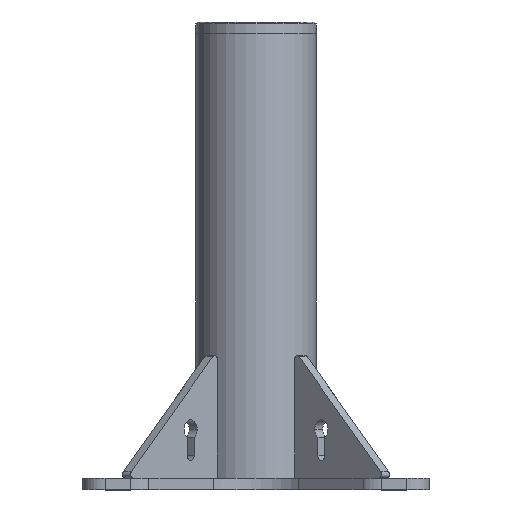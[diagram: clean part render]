
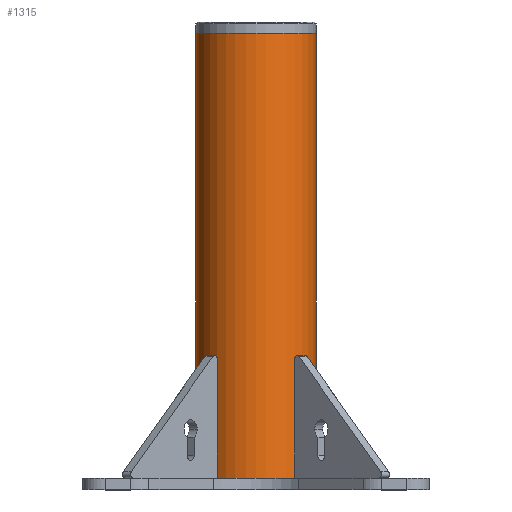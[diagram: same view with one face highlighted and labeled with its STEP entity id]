
A CAD part, top view. The second image highlights one B-rep face of the part: STEP entity #1315.
In plain terms, the highlighted cylindrical face has radius 50.8 mm (diameter 101.6 mm), a partial arc.
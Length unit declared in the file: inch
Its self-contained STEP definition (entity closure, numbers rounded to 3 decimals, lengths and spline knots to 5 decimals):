
#8 = AXIS2_PLACEMENT_3D ( 'NONE', #4723, #3287, #1858 ) ;
#178 = VERTEX_POINT ( 'NONE', #839 ) ;
#197 = VERTEX_POINT ( 'NONE', #3019 ) ;
#228 = CARTESIAN_POINT ( 'NONE',  ( 0., 0., 0. ) ) ;
#476 = EDGE_CURVE ( 'NONE', #197, #178, #3903, .T. ) ;
#523 = CARTESIAN_POINT ( 'NONE',  ( 0., 14.75, 2. ) ) ;
#588 = DIRECTION ( 'NONE',  ( 0., 1., 0. ) ) ;
#622 = DIRECTION ( 'NONE',  ( 0., -1., 0. ) ) ;
#631 = CARTESIAN_POINT ( 'NONE',  ( 0., 14.75, 0. ) ) ;
#780 = ORIENTED_EDGE ( 'NONE', *, *, #909, .T. ) ;
#839 = CARTESIAN_POINT ( 'NONE',  ( 0., 0., 2. ) ) ;
#909 = EDGE_CURVE ( 'NONE', #178, #1590, #3458, .T. ) ;
#1015 = FACE_OUTER_BOUND ( 'NONE', #2285, .T. ) ;
#1146 = CARTESIAN_POINT ( 'NONE',  ( 0., 14.75, -2. ) ) ;
#1303 = VECTOR ( 'NONE', #622, 39.37008 ) ;
#1315 = ADVANCED_FACE ( 'NONE', ( #1015 ), #4618, .T. ) ;
#1371 = VECTOR ( 'NONE', #2971, 39.37008 ) ;
#1376 = ORIENTED_EDGE ( 'NONE', *, *, #1613, .F. ) ;
#1504 = ORIENTED_EDGE ( 'NONE', *, *, #476, .T. ) ;
#1519 = ORIENTED_EDGE ( 'NONE', *, *, #2894, .F. ) ;
#1543 = AXIS2_PLACEMENT_3D ( 'NONE', #631, #2042, #2096 ) ;
#1590 = VERTEX_POINT ( 'NONE', #1608 ) ;
#1608 = CARTESIAN_POINT ( 'NONE',  ( 0., 0., -2. ) ) ;
#1613 = EDGE_CURVE ( 'NONE', #4481, #1590, #4105, .T. ) ;
#1699 = DIRECTION ( 'NONE',  ( 0., 0., 1. ) ) ;
#1766 = CIRCLE ( 'NONE', #8, 2. ) ;
#1858 = DIRECTION ( 'NONE',  ( 0., 0., 1. ) ) ;
#2042 = DIRECTION ( 'NONE',  ( 0., -1., 0. ) ) ;
#2096 = DIRECTION ( 'NONE',  ( 0., 0., -1. ) ) ;
#2285 = EDGE_LOOP ( 'NONE', ( #1519, #1504, #780, #1376 ) ) ;
#2894 = EDGE_CURVE ( 'NONE', #197, #4481, #1766, .T. ) ;
#2971 = DIRECTION ( 'NONE',  ( 0., -1., 0. ) ) ;
#3019 = CARTESIAN_POINT ( 'NONE',  ( 0., 14.75, 2. ) ) ;
#3287 = DIRECTION ( 'NONE',  ( 0., 1., 0. ) ) ;
#3458 = CIRCLE ( 'NONE', #3691, 2. ) ;
#3691 = AXIS2_PLACEMENT_3D ( 'NONE', #228, #588, #1699 ) ;
#3903 = LINE ( 'NONE', #523, #1303 ) ;
#4105 = LINE ( 'NONE', #4501, #1371 ) ;
#4481 = VERTEX_POINT ( 'NONE', #1146 ) ;
#4501 = CARTESIAN_POINT ( 'NONE',  ( 0., 14.75, -2. ) ) ;
#4618 = CYLINDRICAL_SURFACE ( 'NONE', #1543, 2. ) ;
#4723 = CARTESIAN_POINT ( 'NONE',  ( 0., 14.75, 0. ) ) ;
